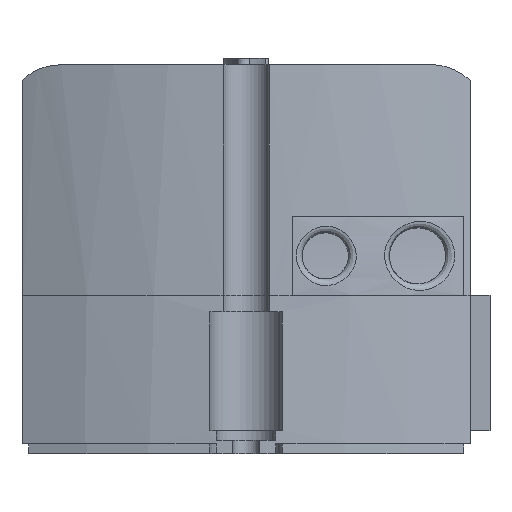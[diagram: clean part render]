
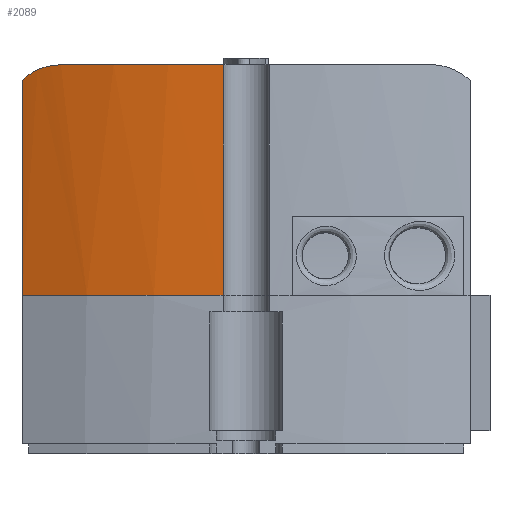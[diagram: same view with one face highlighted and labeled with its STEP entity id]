
A CAD part, left-side view. The second image highlights one B-rep face of the part: STEP entity #2089.
In plain terms, the highlighted cylindrical face has radius 80 mm (diameter 160 mm), a partial arc.
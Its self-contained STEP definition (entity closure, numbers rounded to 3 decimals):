
#2089=ADVANCED_FACE('',(#2459),#2348,.T.);
#2348=CYLINDRICAL_SURFACE('',#6503,80.);
#2459=FACE_OUTER_BOUND('',#2678,.T.);
#2678=EDGE_LOOP('',(#3338,#3339,#3340,#3341,#3342));
#2984=B_SPLINE_CURVE_WITH_KNOTS('',3,(#8573,#8574,#8575,#8576,#8577,#8578,
#8579),.UNSPECIFIED.,.F.,.F.,(4,3,4),(0.,0.472,1.),
 .UNSPECIFIED.);
#3024=CIRCLE('',#6501,80.);
#3025=CIRCLE('',#6502,80.);
#3338=ORIENTED_EDGE('',*,*,#5157,.T.);
#3339=ORIENTED_EDGE('',*,*,#5158,.T.);
#3340=ORIENTED_EDGE('',*,*,#5159,.T.);
#3341=ORIENTED_EDGE('',*,*,#5160,.T.);
#3342=ORIENTED_EDGE('',*,*,#5161,.T.);
#4698=VERTEX_POINT('',#8565);
#4699=VERTEX_POINT('',#8566);
#4700=VERTEX_POINT('',#8568);
#4701=VERTEX_POINT('',#8570);
#4702=VERTEX_POINT('',#8572);
#5157=EDGE_CURVE('',#4698,#4699,#5831,.T.);
#5158=EDGE_CURVE('',#4699,#4700,#3024,.T.);
#5159=EDGE_CURVE('',#4700,#4701,#5832,.T.);
#5160=EDGE_CURVE('',#4701,#4702,#3025,.T.);
#5161=EDGE_CURVE('',#4702,#4698,#2984,.T.);
#5831=LINE('',#8564,#6165);
#5832=LINE('',#8569,#6166);
#6165=VECTOR('',#7077,1.);
#6166=VECTOR('',#7080,1.);
#6501=AXIS2_PLACEMENT_3D('',#8567,#7078,#7079);
#6502=AXIS2_PLACEMENT_3D('',#8571,#7081,#7082);
#6503=AXIS2_PLACEMENT_3D('',#8580,#7083,#7084);
#7077=DIRECTION('',(0.,0.,-1.));
#7078=DIRECTION('',(0.,0.,1.));
#7079=DIRECTION('',(-1.,0.,0.));
#7080=DIRECTION('',(0.,0.,1.));
#7081=DIRECTION('',(0.,0.,-1.));
#7082=DIRECTION('',(0.,-1.,0.));
#7083=DIRECTION('',(0.,0.,-1.));
#7084=DIRECTION('',(0.,-1.,0.));
#8564=CARTESIAN_POINT('',(-86.675,34.,-26.25));
#8565=CARTESIAN_POINT('',(-86.675,34.,26.869));
#8566=CARTESIAN_POINT('',(-86.675,34.,-5.75));
#8567=CARTESIAN_POINT('',(-14.26,0.,-5.75));
#8568=CARTESIAN_POINT('',(-94.183,3.5,-5.75));
#8569=CARTESIAN_POINT('',(-94.183,3.5,-26.25));
#8570=CARTESIAN_POINT('',(-94.183,3.5,29.25));
#8571=CARTESIAN_POINT('',(-14.26,0.,29.25));
#8572=CARTESIAN_POINT('',(-89.163,28.1,29.25));
#8573=CARTESIAN_POINT('',(-89.163,28.1,29.25));
#8574=CARTESIAN_POINT('',(-88.778,29.124,29.25));
#8575=CARTESIAN_POINT('',(-88.367,30.154,29.061));
#8576=CARTESIAN_POINT('',(-87.965,31.106,28.701));
#8577=CARTESIAN_POINT('',(-87.517,32.167,28.299));
#8578=CARTESIAN_POINT('',(-87.066,33.168,27.671));
#8579=CARTESIAN_POINT('',(-86.675,34.,26.869));
#8580=CARTESIAN_POINT('',(-14.26,0.,-26.25));
